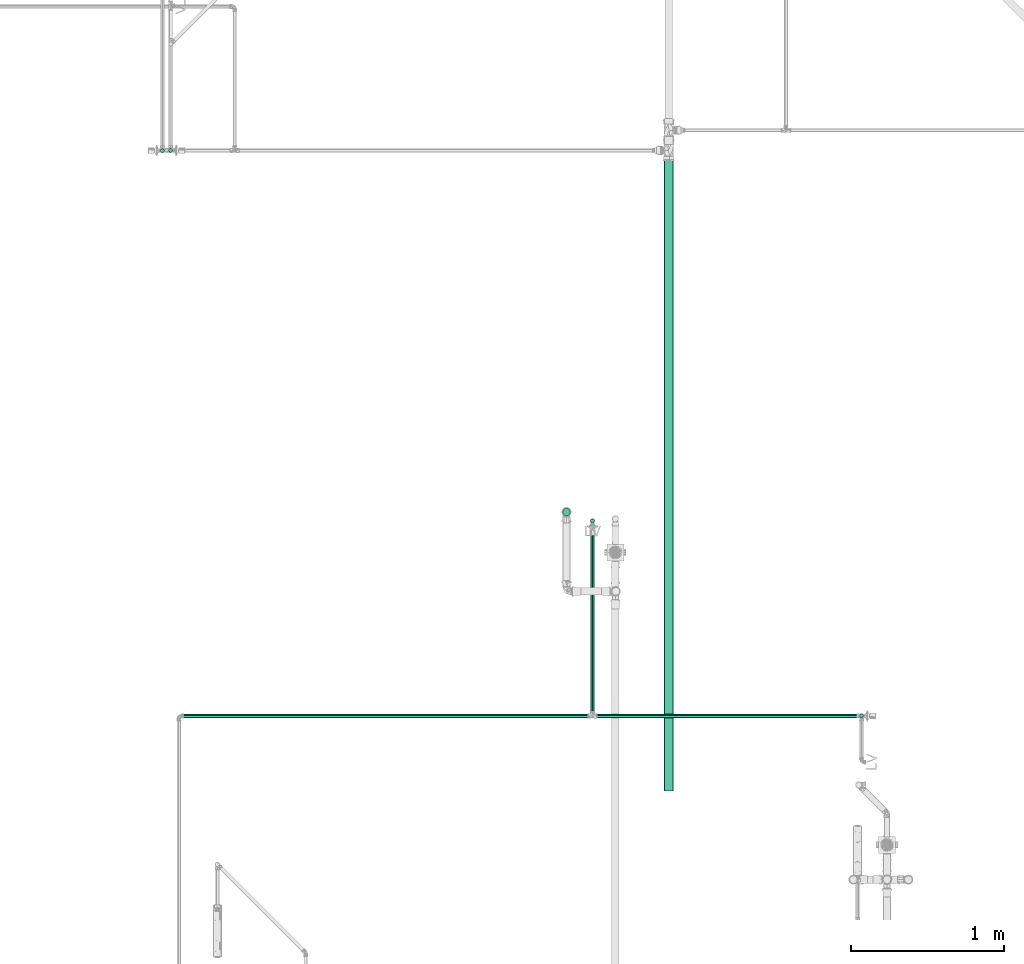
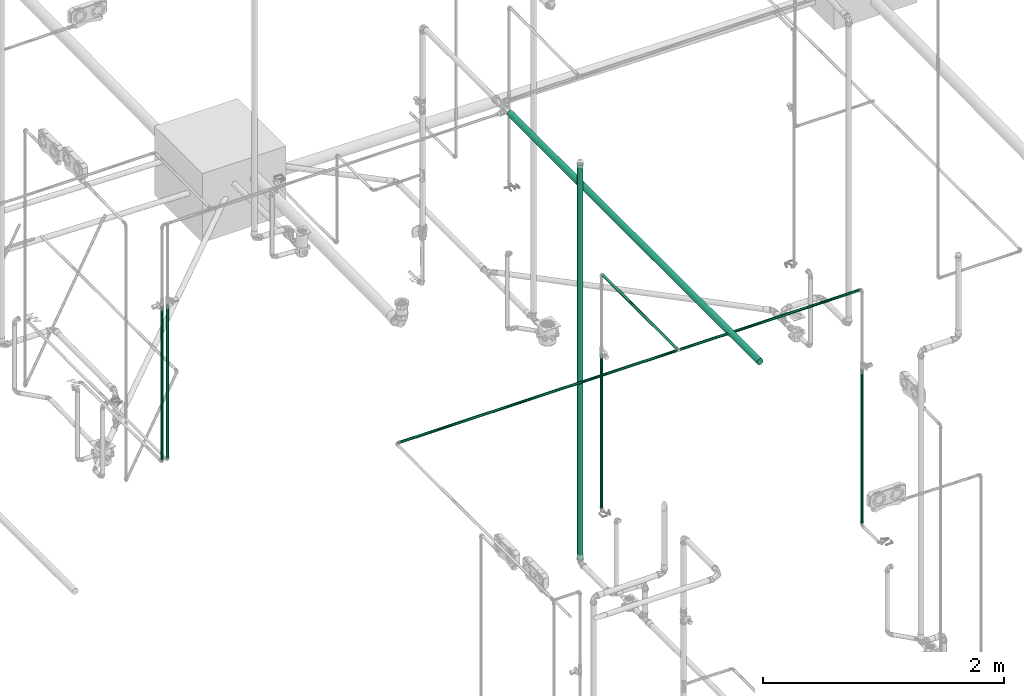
# One storey, part 16 of 589: 9 flow segments.
"""IFC2X3 building model written with IfcOpenShell, lengths in millimetres."""

from ifc_helpers import new_model, entity, si_unit, converted_unit, derived_unit, direction, frame, frame_2d, origin, origin_2d_with_axis, place, context, subcontext, project, spatial, circle, extrude, type_object, element, save


model = new_model("IFC2X3")

# Units and contexts
model_context = context("Model", 3, precision=0.01, world=origin(), true_north=direction((6.123031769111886e-17, 1.0)))
body_context = subcontext(model_context, "Body", "Model", "MODEL_VIEW")
ifc_project = project(units=[si_unit("LENGTHUNIT", "METRE", prefix="MILLI"), si_unit("AREAUNIT", "SQUARE_METRE"), si_unit("VOLUMEUNIT", "CUBIC_METRE"), converted_unit("PLANEANGLEUNIT", "DEGREE", entity("IfcRatioMeasure", 0.017453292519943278), si_unit("PLANEANGLEUNIT", "RADIAN"), dimensions=[0, 0, 0, 0, 0, 0, 0]), si_unit("MASSUNIT", "GRAM", prefix="KILO"), derived_unit("MASSDENSITYUNIT", [(si_unit("MASSUNIT", "GRAM", prefix="KILO"), 1), (si_unit("LENGTHUNIT", "METRE"), -3)]), derived_unit("IONCONCENTRATIONUNIT", [(si_unit("MASSUNIT", "GRAM", prefix="KILO"), 1), (si_unit("LENGTHUNIT", "METRE"), -3)]), derived_unit("MOMENTOFINERTIAUNIT", [(si_unit("LENGTHUNIT", "METRE"), 4)]), si_unit("TIMEUNIT", "SECOND"), si_unit("FREQUENCYUNIT", "HERTZ"), si_unit("THERMODYNAMICTEMPERATUREUNIT", "DEGREE_CELSIUS"), derived_unit("THERMALTRANSMITTANCEUNIT", [(si_unit("MASSUNIT", "GRAM", prefix="KILO"), 1), (si_unit("THERMODYNAMICTEMPERATUREUNIT", "KELVIN"), -1), (si_unit("TIMEUNIT", "SECOND"), -3)]), derived_unit("THERMALCONDUCTANCEUNIT", [(si_unit("MASSUNIT", "GRAM", prefix="KILO"), 1), (si_unit("THERMODYNAMICTEMPERATUREUNIT", "KELVIN"), -1), (si_unit("TIMEUNIT", "SECOND"), -3), (si_unit("LENGTHUNIT", "METRE"), 1)]), derived_unit("VOLUMETRICFLOWRATEUNIT", [(si_unit("LENGTHUNIT", "METRE"), 3), (si_unit("TIMEUNIT", "SECOND"), -1)]), derived_unit("MASSFLOWRATEUNIT", [(si_unit("MASSUNIT", "GRAM", prefix="KILO"), 1), (si_unit("TIMEUNIT", "SECOND"), -1)]), derived_unit("ROTATIONALFREQUENCYUNIT", [(si_unit("TIMEUNIT", "SECOND"), -1)]), si_unit("ELECTRICCURRENTUNIT", "AMPERE"), si_unit("ELECTRICVOLTAGEUNIT", "VOLT"), si_unit("POWERUNIT", "WATT"), si_unit("FORCEUNIT", "NEWTON", prefix="KILO"), si_unit("ILLUMINANCEUNIT", "LUX"), si_unit("LUMINOUSFLUXUNIT", "LUMEN"), si_unit("LUMINOUSINTENSITYUNIT", "CANDELA"), derived_unit("USERDEFINED", [(si_unit("MASSUNIT", "GRAM", prefix="KILO"), -1), (si_unit("LENGTHUNIT", "METRE"), -2), (si_unit("TIMEUNIT", "SECOND"), 3), (si_unit("LUMINOUSFLUXUNIT", "LUMEN"), 1)]), derived_unit("USERDEFINED", [(si_unit("MASSUNIT", "GRAM", prefix="KILO"), 1), (si_unit("TIMEUNIT", "SECOND"), -3), (si_unit("LENGTHUNIT", "METRE"), 3), (si_unit("ELECTRICCURRENTUNIT", "AMPERE"), -2)]), derived_unit("SOUNDPOWERUNIT", [(si_unit("MASSUNIT", "GRAM", prefix="KILO"), 1), (si_unit("TIMEUNIT", "SECOND"), -3), (si_unit("LENGTHUNIT", "METRE"), 2)]), derived_unit("SOUNDPRESSUREUNIT", [(si_unit("MASSUNIT", "GRAM", prefix="KILO"), 1), (si_unit("LENGTHUNIT", "METRE"), -1), (si_unit("TIMEUNIT", "SECOND"), -2)]), derived_unit("LINEARVELOCITYUNIT", [(si_unit("LENGTHUNIT", "METRE"), 1), (si_unit("TIMEUNIT", "SECOND"), -1)]), si_unit("PRESSUREUNIT", "PASCAL"), derived_unit("USERDEFINED", [(si_unit("MASSUNIT", "GRAM", prefix="KILO"), 1), (si_unit("LENGTHUNIT", "METRE"), -2), (si_unit("TIMEUNIT", "SECOND"), -2)]), derived_unit("LINEARFORCEUNIT", [(si_unit("MASSUNIT", "GRAM", prefix="KILO"), 1), (si_unit("TIMEUNIT", "SECOND"), -2)]), derived_unit("PLANARFORCEUNIT", [(si_unit("MASSUNIT", "GRAM", prefix="KILO"), 1), (si_unit("LENGTHUNIT", "METRE"), -1), (si_unit("TIMEUNIT", "SECOND"), -2)]), derived_unit("SPECIFICHEATCAPACITYUNIT", [(si_unit("THERMODYNAMICTEMPERATUREUNIT", "KELVIN"), -1), (si_unit("LENGTHUNIT", "METRE"), 2), (si_unit("TIMEUNIT", "SECOND"), -2)]), derived_unit("HEATINGVALUEUNIT", [(si_unit("LENGTHUNIT", "METRE"), 2), (si_unit("TIMEUNIT", "SECOND"), -2)]), derived_unit("VAPORPERMEABILITYUNIT", [(si_unit("LENGTHUNIT", "METRE"), -1), (si_unit("TIMEUNIT", "SECOND"), 1)]), derived_unit("DYNAMICVISCOSITYUNIT", [(si_unit("MASSUNIT", "GRAM", prefix="KILO"), 1), (si_unit("TIMEUNIT", "SECOND"), -1), (si_unit("LENGTHUNIT", "METRE"), -1)]), derived_unit("THERMALEXPANSIONCOEFFICIENTUNIT", [(si_unit("THERMODYNAMICTEMPERATUREUNIT", "KELVIN"), -1)]), derived_unit("MODULUSOFELASTICITYUNIT", [(si_unit("MASSUNIT", "GRAM", prefix="KILO"), 1), (si_unit("LENGTHUNIT", "METRE"), -1), (si_unit("TIMEUNIT", "SECOND"), -2)]), derived_unit("ISOTHERMALMOISTURECAPACITYUNIT", [(si_unit("LENGTHUNIT", "METRE"), 3), (si_unit("MASSUNIT", "GRAM", prefix="KILO"), -1)]), derived_unit("MOISTUREDIFFUSIVITYUNIT", [(si_unit("TIMEUNIT", "SECOND"), -1), (si_unit("LENGTHUNIT", "METRE"), 2)])], contexts=[model_context])

# Site, building, storey
site_placement = place(None, origin())
site = spatial("IfcSite", under=ifc_project, at=site_placement, Name="Default", CompositionType="ELEMENT")
building_placement = place(site_placement, origin())
building = spatial("IfcBuilding", under=site, at=building_placement, CompositionType="ELEMENT")
storey_placement = place(building_placement, frame((0.0, 0.0, 100.0)))
storey = spatial("IfcBuildingStorey", under=building, at=storey_placement, Name="TÉRREO", CompositionType="ELEMENT", Elevation=100.0)

# Flow segments
pipe_segment_type_1 = type_object("IfcPipeSegmentType", Name="Tipos de tubos:PVC Esgoto Série Normal", PredefinedType="NOTDEFINED")
flow_segment_1_placement = place(storey_placement, origin())
element("IfcFlowSegment", 1, at=flow_segment_1_placement, inside=storey, type_object=pipe_segment_type_1, Name="Tipos de tubos:PVC Esgoto Série Normal", ObjectType="Tipos de tubos:PVC Esgoto Série Normal", context=body_context, shape_type="SweptSolid", body=[
    extrude(circle(Radius=25.0, at=origin_2d_with_axis()), frame((9946.454903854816, -4259.93904253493, 119.34129996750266), z_axis=(0.0, 0.0, 1.0), x_axis=(-1.0, 0.0, 0.0)), (0.0, 0.0, 1.0), 4014.558700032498),
])
pipe_segment_type_2 = type_object("IfcPipeSegmentType", Name="Tipos de tubos:PVC Marrom Soldável", PredefinedType="NOTDEFINED")
flow_segment_2_placement = place(storey_placement, origin())
element("IfcFlowSegment", 2, at=flow_segment_2_placement, inside=storey, type_object=pipe_segment_type_2, Name="Tipos de tubos:PVC Marrom Soldável", ObjectType="Tipos de tubos:PVC Marrom Soldável", context=body_context, shape_type="SweptSolid", body=[
    extrude(circle(Radius=12.5, at=origin_2d_with_axis()), frame((10116.726330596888, -4318.555342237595, 616.3000000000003), z_axis=(0.0, 0.0, 1.0), x_axis=(-1.0, 0.0, 0.0)), (0.0, 0.0, 1.0), 1563.6999999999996),
])
flow_segment_3_placement = place(storey_placement, origin())
element("IfcFlowSegment", 3, at=flow_segment_3_placement, inside=storey, type_object=pipe_segment_type_2, Name="Tipos de tubos:PVC Marrom Soldável", ObjectType="Tipos de tubos:PVC Marrom Soldável", context=body_context, shape_type="SweptSolid", body=[
    extrude(circle(Radius=12.5, at=origin_2d_with_axis()), frame((11878.221256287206, -5595.395968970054, 615.4000000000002), z_axis=(0.0, 0.0, 1.0), x_axis=(-1.0, 0.0, 0.0)), (0.0, 0.0, 1.0), 1564.6000000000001),
])
flow_segment_4_placement = place(storey_placement, origin())
element("IfcFlowSegment", 4, at=flow_segment_4_placement, inside=storey, type_object=pipe_segment_type_2, Name="Tipos de tubos:PVC Marrom Soldável", ObjectType="Tipos de tubos:PVC Marrom Soldável", context=body_context, shape_type="SweptSolid", body=[
    extrude(circle(Radius=12.5, at=origin_2d_with_axis()), frame((10132.626330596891, -5595.395968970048, 2995.0), z_axis=(1.0, 0.0, 0.0), x_axis=(0.0, -1.0, 0.0)), (0.0, 0.0, 1.0), 1730.1949256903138),
])
flow_segment_5_placement = place(storey_placement, origin())
element("IfcFlowSegment", 5, at=flow_segment_5_placement, inside=storey, type_object=pipe_segment_type_2, Name="Tipos de tubos:PVC Marrom Soldável", ObjectType="Tipos de tubos:PVC Marrom Soldável", context=body_context, shape_type="SweptSolid", body=[
    extrude(circle(Radius=12.5, at=frame_2d((2.1657342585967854e-12, -5.414335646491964e-13), x_axis=(1.0, 0.0))), frame((10116.72633059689, -5580.895968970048, 2995.0), z_axis=(0.0, 1.0, 0.0), x_axis=(-1.0, 0.0, 0.0)), (0.0, 0.0, 1.0), 1246.9406267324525),
])
flow_segment_6_placement = place(storey_placement, origin())
element("IfcFlowSegment", 6, at=flow_segment_6_placement, inside=storey, type_object=pipe_segment_type_2, Name="Tipos de tubos:PVC Marrom Soldável", ObjectType="Tipos de tubos:PVC Marrom Soldável", context=body_context, shape_type="SweptSolid", body=[
    extrude(circle(Radius=12.5, at=origin_2d_with_axis()), frame((7424.3426853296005, -5595.395968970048, 2995.0), z_axis=(1.0, 0.0, 0.0), x_axis=(0.0, -1.0, 0.0)), (0.0, 0.0, 1.0), 2676.4836452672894),
])
flow_segment_7_placement = place(storey_placement, origin())
element("IfcFlowSegment", 7, at=flow_segment_7_placement, inside=storey, type_object=pipe_segment_type_2, Name="Tipos de tubos:PVC Marrom Soldável", ObjectType="Tipos de tubos:PVC Marrom Soldável", context=body_context, shape_type="SweptSolid", body=[
    extrude(circle(Radius=12.5, at=origin_2d_with_axis()), frame((7354.069381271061, -1892.4193778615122, 615.4000000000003), z_axis=(0.0, 0.0, 1.0), x_axis=(-1.0, 0.0, 0.0)), (0.0, 0.0, 1.0), 1564.6000000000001),
])
flow_segment_8_placement = place(storey_placement, origin())
element("IfcFlowSegment", 8, at=flow_segment_8_placement, inside=storey, type_object=pipe_segment_type_2, Name="Tipos de tubos:PVC Marrom Soldável", ObjectType="Tipos de tubos:PVC Marrom Soldável", context=body_context, shape_type="SweptSolid", body=[
    extrude(circle(Radius=12.5, at=frame_2d((0.0, 2.707167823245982e-13), x_axis=(1.0, 0.0))), frame((7301.1693911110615, -1893.0948412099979, 615.4000000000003), z_axis=(0.0, 0.0, 1.0), x_axis=(-1.0, 0.0, 0.0)), (0.0, 0.0, 1.0), 1564.5999999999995),
])
flow_segment_9_placement = place(storey_placement, origin())
element("IfcFlowSegment", 9, at=flow_segment_9_placement, inside=storey, type_object=pipe_segment_type_2, Name="Tipos de tubos:PVC Marrom Soldável", ObjectType="Tipos de tubos:PVC Marrom Soldável", context=body_context, shape_type="SweptSolid", body=[
    extrude(circle(Radius=30.0, at=origin_2d_with_axis()), frame((10616.154026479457, -6087.625782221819, 3000.0), z_axis=(0.0, 1.0, 0.0), x_axis=(1.0, 0.0, 0.0)), (0.0, 0.0, 1.0), 4154.906404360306),
])

save(model, "model.ifc")
